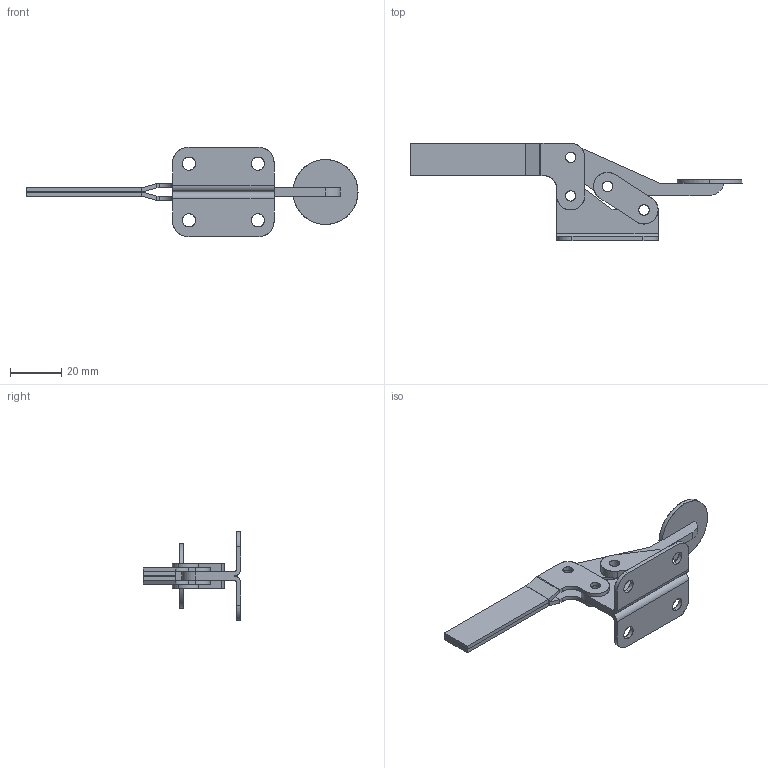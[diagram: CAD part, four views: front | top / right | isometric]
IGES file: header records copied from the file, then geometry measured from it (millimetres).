
Start section: SolidWorks IGES file using analytic representation for surfaces
Global section: file name: D:\GH Files\GH-SW-FILES\GH2\22100, 22115\22115\GH-22115.IGS; native system: SolidWorks 2007; preprocessor: SolidWorks 2007; author: Administrator; date: 061121.150956; units: millimetre
Bounding box: 129.94 x 38.1 x 34.92 mm (x, y, z)
Surface area: 13143.8 mm2 (no closed solid volume)
Topology: 0 solids, 0 shells, 139 faces, 2170 edges, 2170 vertices
Faces by surface type: revolution 72, bspline 67
